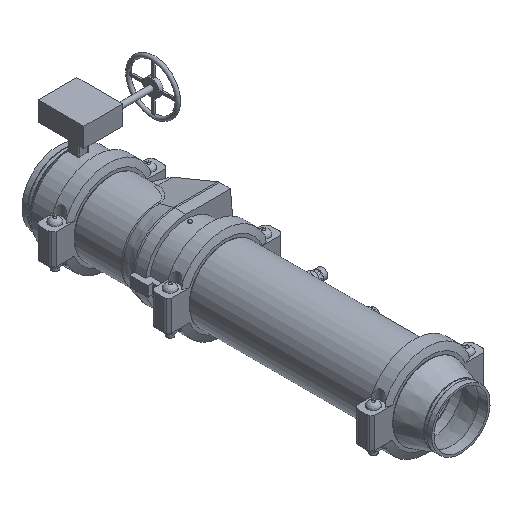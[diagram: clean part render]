
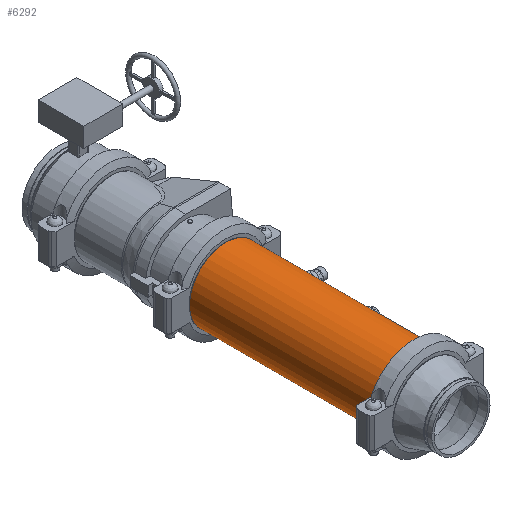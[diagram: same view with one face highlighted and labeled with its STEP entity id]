
A CAD part, isometric view. The second image highlights one B-rep face of the part: STEP entity #6292.
In plain terms, the highlighted cylindrical face has radius 136.525 mm (diameter 273.05 mm), a full revolution.
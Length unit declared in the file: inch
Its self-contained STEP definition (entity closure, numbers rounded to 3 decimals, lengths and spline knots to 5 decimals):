
#171=LINE('',#9629,#632);
#632=VECTOR('',#7705,5.375);
#1091=CYLINDRICAL_SURFACE('',#6883,5.375);
#1286=FACE_OUTER_BOUND('',#1645,.T.);
#1645=EDGE_LOOP('',(#4010,#4011,#4012,#4013,#4014,#4015));
#2081=CIRCLE('',#6881,5.375);
#2082=CIRCLE('',#6882,5.375);
#2083=CIRCLE('',#6884,5.375);
#2084=CIRCLE('',#6885,5.375);
#2447=VERTEX_POINT('',#9620);
#2448=VERTEX_POINT('',#9621);
#2449=VERTEX_POINT('',#9625);
#2450=VERTEX_POINT('',#9626);
#3068=EDGE_CURVE('',#2447,#2448,#2081,.T.);
#3069=EDGE_CURVE('',#2448,#2447,#2082,.T.);
#3070=EDGE_CURVE('',#2449,#2450,#2083,.T.);
#3071=EDGE_CURVE('',#2450,#2449,#2084,.T.);
#3072=EDGE_CURVE('',#2450,#2448,#171,.T.);
#4010=ORIENTED_EDGE('',*,*,#3070,.F.);
#4011=ORIENTED_EDGE('',*,*,#3071,.F.);
#4012=ORIENTED_EDGE('',*,*,#3072,.T.);
#4013=ORIENTED_EDGE('',*,*,#3069,.T.);
#4014=ORIENTED_EDGE('',*,*,#3068,.T.);
#4015=ORIENTED_EDGE('',*,*,#3072,.F.);
#6292=ADVANCED_FACE('',(#1286),#1091,.T.);
#6881=AXIS2_PLACEMENT_3D('',#9622,#7695,#7696);
#6882=AXIS2_PLACEMENT_3D('',#9623,#7697,#7698);
#6883=AXIS2_PLACEMENT_3D('',#9624,#7699,#7700);
#6884=AXIS2_PLACEMENT_3D('',#9627,#7701,#7702);
#6885=AXIS2_PLACEMENT_3D('',#9628,#7703,#7704);
#7695=DIRECTION('center_axis',(1.,0.,0.));
#7696=DIRECTION('ref_axis',(0.,0.,-1.));
#7697=DIRECTION('center_axis',(1.,0.,0.));
#7698=DIRECTION('ref_axis',(0.,0.,-1.));
#7699=DIRECTION('center_axis',(1.,0.,0.));
#7700=DIRECTION('ref_axis',(0.,1.,0.));
#7701=DIRECTION('center_axis',(1.,0.,0.));
#7702=DIRECTION('ref_axis',(0.,0.,-1.));
#7703=DIRECTION('center_axis',(1.,0.,0.));
#7704=DIRECTION('ref_axis',(0.,0.,-1.));
#7705=DIRECTION('',(-1.,0.,0.));
#9620=CARTESIAN_POINT('',(-13.7985,5.375,0.));
#9621=CARTESIAN_POINT('',(-13.7985,-5.375,0.));
#9622=CARTESIAN_POINT('Origin',(-13.7985,0.,0.));
#9623=CARTESIAN_POINT('Origin',(-13.7985,0.,0.));
#9624=CARTESIAN_POINT('Origin',(0.,0.,0.));
#9625=CARTESIAN_POINT('',(13.7985,5.375,0.));
#9626=CARTESIAN_POINT('',(13.7985,-5.375,0.));
#9627=CARTESIAN_POINT('Origin',(13.7985,0.,0.));
#9628=CARTESIAN_POINT('Origin',(13.7985,0.,0.));
#9629=CARTESIAN_POINT('',(0.,-5.375,0.));
